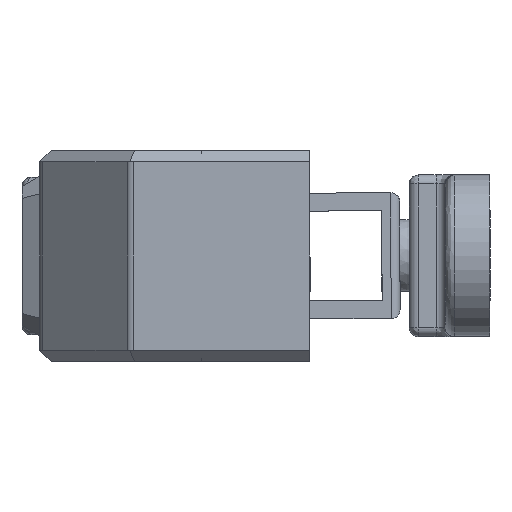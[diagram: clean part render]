
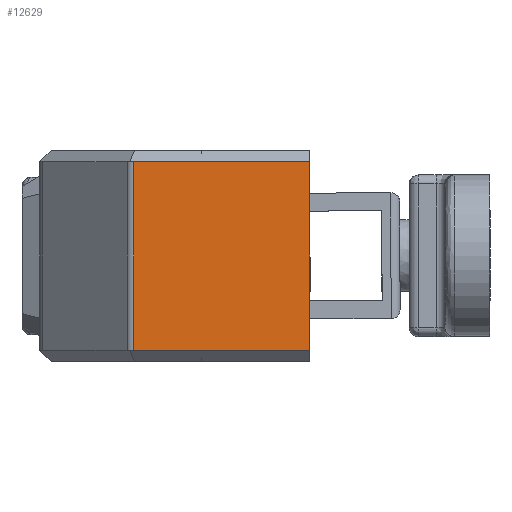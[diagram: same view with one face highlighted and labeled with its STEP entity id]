
A CAD part, left-side view. The second image highlights one B-rep face of the part: STEP entity #12629.
In plain terms, the highlighted planar face has unit normal (-1, 0, 0).
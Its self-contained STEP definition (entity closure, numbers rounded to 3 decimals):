
#365 = ORIENTED_EDGE ( 'NONE', *, *, #14357, .F. ) ;
#366 = ORIENTED_EDGE ( 'NONE', *, *, #14271, .T. ) ;
#367 = ORIENTED_EDGE ( 'NONE', *, *, #14358, .T. ) ;
#368 = ORIENTED_EDGE ( 'NONE', *, *, #14359, .F. ) ;
#2846 = CARTESIAN_POINT ( 'NONE',  ( -24.437, 115.302, 24.946 ) ) ;
#2862 = CARTESIAN_POINT ( 'NONE',  ( -24.437, 115.302, 3.946 ) ) ;
#3433 = AXIS2_PLACEMENT_3D ( 'NONE', #3783, #3784, #3785 ) ;
#3758 = PLANE ( 'NONE',  #3433 ) ;
#3773 = FACE_OUTER_BOUND ( 'NONE', #13700, .T. ) ;
#3783 = CARTESIAN_POINT ( 'NONE',  ( -24.437, 115.716, 2.946 ) ) ;
#3784 = DIRECTION ( 'NONE',  ( -1., 0., 0. ) ) ;
#3785 = DIRECTION ( 'NONE',  ( 0., 0., 1. ) ) ;
#10331 = VECTOR ( 'NONE', #11554, 1000. ) ;
#11135 = CARTESIAN_POINT ( 'NONE',  ( -24.437, 95.716, 3.946 ) ) ;
#11143 = CARTESIAN_POINT ( 'NONE',  ( -24.437, 95.716, 24.946 ) ) ;
#11552 = LINE ( 'NONE', #11553, #10331 ) ;
#11553 = CARTESIAN_POINT ( 'NONE',  ( -24.437, 115.302, 2.946 ) ) ;
#11554 = DIRECTION ( 'NONE',  ( 0., 0., -1. ) ) ;
#11827 = LINE ( 'NONE', #11828, #12181 ) ;
#11828 = CARTESIAN_POINT ( 'NONE',  ( -24.437, 160.907, 24.946 ) ) ;
#11829 = DIRECTION ( 'NONE',  ( 0., -1., 0. ) ) ;
#11830 = LINE ( 'NONE', #11831, #12182 ) ;
#11831 = CARTESIAN_POINT ( 'NONE',  ( -24.437, 115.716, 3.946 ) ) ;
#11832 = DIRECTION ( 'NONE',  ( 0., -1., 0. ) ) ;
#11833 = LINE ( 'NONE', #11835, #12183 ) ;
#11835 = CARTESIAN_POINT ( 'NONE',  ( -24.437, 95.716, 2.946 ) ) ;
#11836 = DIRECTION ( 'NONE',  ( 0., 0., -1. ) ) ;
#12181 = VECTOR ( 'NONE', #11829, 1000. ) ;
#12182 = VECTOR ( 'NONE', #11832, 1000. ) ;
#12183 = VECTOR ( 'NONE', #11836, 1000. ) ;
#12563 = VERTEX_POINT ( 'NONE', #2846 ) ;
#12579 = VERTEX_POINT ( 'NONE', #2862 ) ;
#12629 = ADVANCED_FACE ( 'NONE', ( #3773 ), #3758, .T. ) ;
#13209 = VERTEX_POINT ( 'NONE', #11135 ) ;
#13217 = VERTEX_POINT ( 'NONE', #11143 ) ;
#13700 = EDGE_LOOP ( 'NONE', ( #365, #366, #367, #368 ) ) ;
#14271 = EDGE_CURVE ( 'NONE', #12563, #12579, #11552, .T. ) ;
#14357 = EDGE_CURVE ( 'NONE', #12563, #13217, #11827, .T. ) ;
#14358 = EDGE_CURVE ( 'NONE', #12579, #13209, #11830, .T. ) ;
#14359 = EDGE_CURVE ( 'NONE', #13217, #13209, #11833, .T. ) ;
